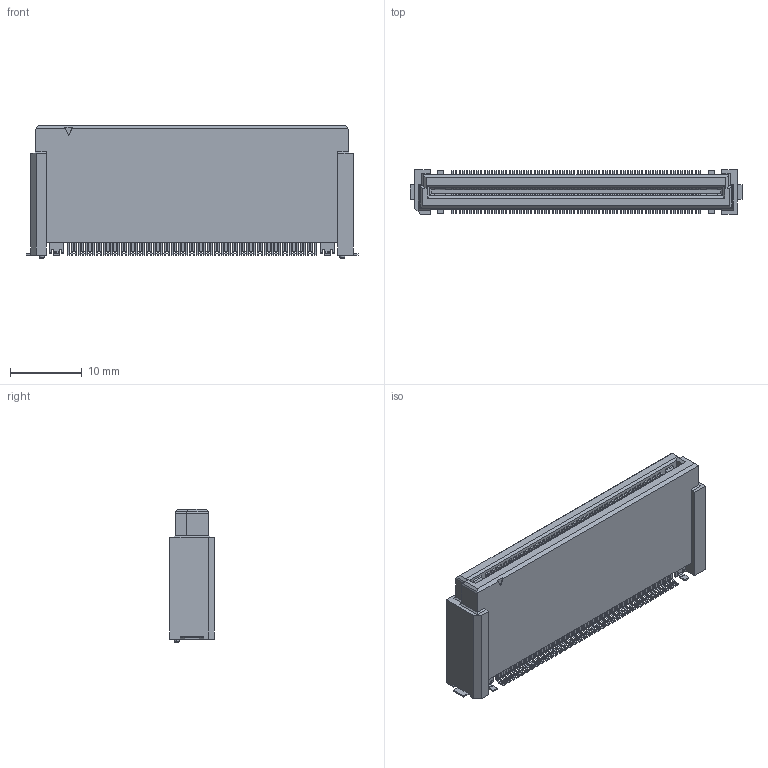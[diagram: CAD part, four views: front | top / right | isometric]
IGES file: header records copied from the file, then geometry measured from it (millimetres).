
Start section: Elysium IGES Interface
Global section: file name: 124HG:\その他\DT関連\DT_CADﾃﾞｰﾀ\DT_3DCAD(客先提出用)\プラグ\DT1XE(電源pin)\-20\DT11E-XXXS-20-T(WEB用)\P3E818_DT11E-140S-20-T.igs; native system: Creo Elements/Direct Modeling 20.6  25-Mar-2023; preprocessor: Creo Element/Direct IGES_3D V2.2; author: Unknown; organization: Unknown; date: 20240312.120213; units: millimetre
Bounding box: 46.4 x 6.2 x 18.63 mm (x, y, z)
Volume: 3395.4 mm3; surface area: 2953.7 mm2
Topology: 1 solids, 1 shells, 4365 faces, 12322 edges, 8108 vertices
Faces by surface type: bspline 4365
